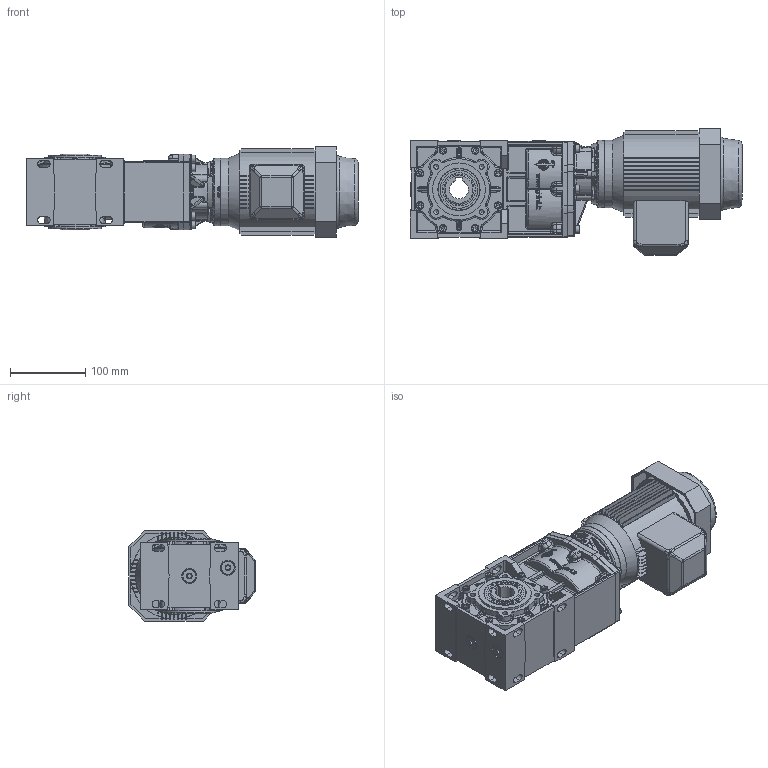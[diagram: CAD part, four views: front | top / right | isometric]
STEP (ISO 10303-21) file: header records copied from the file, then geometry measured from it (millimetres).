
FILE_DESCRIPTION((''),'2;1');
FILE_NAME('S:\Ghirri\3D\MO_RO10\Assiemi\MO10_2s-B14_63.stp','2006-02-01T14:58:35',('Stefano'),(''),'Autodesk Inventor 10','Autodesk Inventor 10','');
FILE_SCHEMA(('AUTOMOTIVE_DESIGN { 1 0 10303 214 1 1 1 1 }'));
Length unit declared in the file: millimetre
Products named in the file (15): MO10_2s-B14_63; Primario_MO10_2S; 3901001-A0; 3901002-A0; 3901003-A0; 3901009-A0; Paraolio-40-56-7; Guarnizione 1_4 GAS; Tappo 1_4 GAS; UNI 5931  M 6 x  20; UNI 8839 A 6; motori B14 63; FM-40-50-D=90; UNI 5739  M5 x 20
Assembly tree (44 placements, depth 3):
  MO10_2s-B14_63
    Primario_MO10_2S
      3901001-A0
      3901002-A0
      3901003-A0
      3901009-A0
      Paraolio-40-56-7  x2
      Guarnizione 1_4 GAS  x5
      Tappo 1_4 GAS  x5
      UNI 5931  M 6 x  20  x14
      UNI 8839 A 6  x6
    motori B14 63
    FM-40-50-D=90
      FM-40-50-D=90
      UNI 5739  M5 x 20  x4
Bounding box: 440.5 x 168 x 120 mm (x, y, z)
Volume: 3966622.7 mm3; surface area: 482325.5 mm2
Topology: 42 solids, 43 shells, 3215 faces, 8209 edges, 5122 vertices
Faces by surface type: plane 1256, cylinder 947, bspline 865, cone 106, torus 37, sphere 4
Full cylindrical faces by diameter (mm): 5 x6, 6 x14, 6.5 x14, 6.88 x4, 10 x14, 11 x1, 11.445 x1, 12 x6, 13 x10, 18 x5, 19 x5, 20 x1, 40 x4, 43 x1, 44 x2, 46 x2, 50 x2, 52 x2, 53 x1, 55 x2, 56 x4, 60 x1, 70 x2, 90 x2, 96.4 x1, 102 x3
Entity records: 135765 total; most frequent: CARTESIAN_POINT 70133, ORIENTED_EDGE 14136, DIRECTION 12880, EDGE_CURVE 7068, AXIS2_PLACEMENT_3D 4916, VERTEX_POINT 4519, EDGE_LOOP 3167, VECTOR 3048
